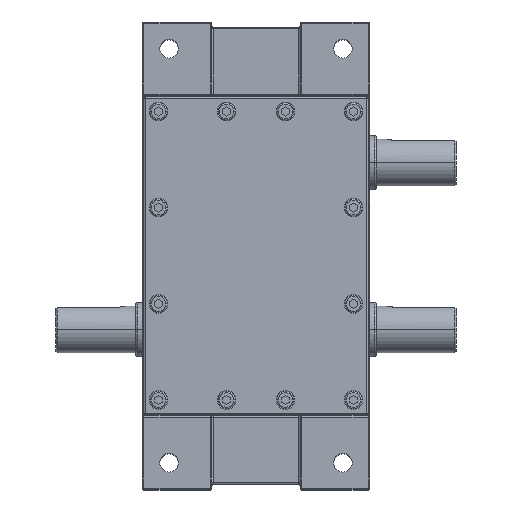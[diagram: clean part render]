
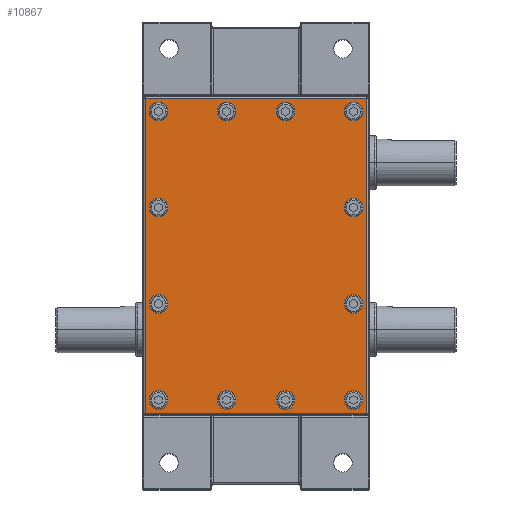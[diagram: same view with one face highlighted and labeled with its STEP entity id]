
A CAD part, top view. The second image highlights one B-rep face of the part: STEP entity #10867.
In plain terms, the highlighted planar face has unit normal (0, 0, 1).
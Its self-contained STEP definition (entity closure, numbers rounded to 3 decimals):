
#1258=CARTESIAN_POINT('',(73.,108.,-2.));
#1259=DIRECTION('',(0.,0.,1.));
#1260=DIRECTION('',(1.,0.,0.));
#1261=AXIS2_PLACEMENT_3D('',#1258,#1259,#1260);
#1263=CARTESIAN_POINT('',(73.,108.,-2.));
#1264=DIRECTION('',(0.,0.,1.));
#1265=DIRECTION('',(-1.,0.,0.));
#1266=AXIS2_PLACEMENT_3D('',#1263,#1264,#1265);
#1268=CARTESIAN_POINT('',(22.,108.,-2.));
#1269=DIRECTION('',(0.,0.,1.));
#1270=DIRECTION('',(1.,0.,0.));
#1271=AXIS2_PLACEMENT_3D('',#1268,#1269,#1270);
#1273=CARTESIAN_POINT('',(22.,108.,-2.));
#1274=DIRECTION('',(0.,0.,1.));
#1275=DIRECTION('',(-1.,0.,0.));
#1276=AXIS2_PLACEMENT_3D('',#1273,#1274,#1275);
#1278=CARTESIAN_POINT('',(-22.,108.,-2.));
#1279=DIRECTION('',(0.,0.,1.));
#1280=DIRECTION('',(1.,0.,0.));
#1281=AXIS2_PLACEMENT_3D('',#1278,#1279,#1280);
#1283=CARTESIAN_POINT('',(-22.,108.,-2.));
#1284=DIRECTION('',(0.,0.,1.));
#1285=DIRECTION('',(-1.,0.,0.));
#1286=AXIS2_PLACEMENT_3D('',#1283,#1284,#1285);
#1288=CARTESIAN_POINT('',(-73.,108.,-2.));
#1289=DIRECTION('',(0.,0.,1.));
#1290=DIRECTION('',(1.,0.,0.));
#1291=AXIS2_PLACEMENT_3D('',#1288,#1289,#1290);
#1293=CARTESIAN_POINT('',(-73.,108.,-2.));
#1294=DIRECTION('',(0.,0.,1.));
#1295=DIRECTION('',(-1.,0.,0.));
#1296=AXIS2_PLACEMENT_3D('',#1293,#1294,#1295);
#1298=CARTESIAN_POINT('',(-73.,36.,-2.));
#1299=DIRECTION('',(0.,0.,1.));
#1300=DIRECTION('',(1.,0.,0.));
#1301=AXIS2_PLACEMENT_3D('',#1298,#1299,#1300);
#1303=CARTESIAN_POINT('',(-73.,36.,-2.));
#1304=DIRECTION('',(0.,0.,1.));
#1305=DIRECTION('',(-1.,0.,0.));
#1306=AXIS2_PLACEMENT_3D('',#1303,#1304,#1305);
#1308=CARTESIAN_POINT('',(-73.,-36.,-2.));
#1309=DIRECTION('',(0.,0.,1.));
#1310=DIRECTION('',(1.,0.,0.));
#1311=AXIS2_PLACEMENT_3D('',#1308,#1309,#1310);
#1313=CARTESIAN_POINT('',(-73.,-36.,-2.));
#1314=DIRECTION('',(0.,0.,1.));
#1315=DIRECTION('',(-1.,0.,0.));
#1316=AXIS2_PLACEMENT_3D('',#1313,#1314,#1315);
#1318=CARTESIAN_POINT('',(-73.,-108.,-2.));
#1319=DIRECTION('',(0.,0.,1.));
#1320=DIRECTION('',(1.,0.,0.));
#1321=AXIS2_PLACEMENT_3D('',#1318,#1319,#1320);
#1323=CARTESIAN_POINT('',(-73.,-108.,-2.));
#1324=DIRECTION('',(0.,0.,1.));
#1325=DIRECTION('',(-1.,0.,0.));
#1326=AXIS2_PLACEMENT_3D('',#1323,#1324,#1325);
#1328=CARTESIAN_POINT('',(-22.,-108.,-2.));
#1329=DIRECTION('',(0.,0.,1.));
#1330=DIRECTION('',(1.,0.,0.));
#1331=AXIS2_PLACEMENT_3D('',#1328,#1329,#1330);
#1333=CARTESIAN_POINT('',(-22.,-108.,-2.));
#1334=DIRECTION('',(0.,0.,1.));
#1335=DIRECTION('',(-1.,0.,0.));
#1336=AXIS2_PLACEMENT_3D('',#1333,#1334,#1335);
#1338=CARTESIAN_POINT('',(22.,-108.,-2.));
#1339=DIRECTION('',(0.,0.,1.));
#1340=DIRECTION('',(1.,0.,0.));
#1341=AXIS2_PLACEMENT_3D('',#1338,#1339,#1340);
#1343=CARTESIAN_POINT('',(22.,-108.,-2.));
#1344=DIRECTION('',(0.,0.,1.));
#1345=DIRECTION('',(-1.,0.,0.));
#1346=AXIS2_PLACEMENT_3D('',#1343,#1344,#1345);
#1348=CARTESIAN_POINT('',(73.,-108.,-2.));
#1349=DIRECTION('',(0.,0.,1.));
#1350=DIRECTION('',(1.,0.,0.));
#1351=AXIS2_PLACEMENT_3D('',#1348,#1349,#1350);
#1353=CARTESIAN_POINT('',(73.,-108.,-2.));
#1354=DIRECTION('',(0.,0.,1.));
#1355=DIRECTION('',(-1.,0.,0.));
#1356=AXIS2_PLACEMENT_3D('',#1353,#1354,#1355);
#1358=CARTESIAN_POINT('',(73.,-36.,-2.));
#1359=DIRECTION('',(0.,0.,1.));
#1360=DIRECTION('',(1.,0.,0.));
#1361=AXIS2_PLACEMENT_3D('',#1358,#1359,#1360);
#1363=CARTESIAN_POINT('',(73.,-36.,-2.));
#1364=DIRECTION('',(0.,0.,1.));
#1365=DIRECTION('',(-1.,0.,0.));
#1366=AXIS2_PLACEMENT_3D('',#1363,#1364,#1365);
#1368=CARTESIAN_POINT('',(73.,36.,-2.));
#1369=DIRECTION('',(0.,0.,1.));
#1370=DIRECTION('',(1.,0.,0.));
#1371=AXIS2_PLACEMENT_3D('',#1368,#1369,#1370);
#1373=CARTESIAN_POINT('',(73.,36.,-2.));
#1374=DIRECTION('',(0.,0.,1.));
#1375=DIRECTION('',(-1.,0.,0.));
#1376=AXIS2_PLACEMENT_3D('',#1373,#1374,#1375);
#1378=DIRECTION('',(0.,1.,0.));
#1379=VECTOR('',#1378,236.);
#1380=CARTESIAN_POINT('',(83.,-118.,-2.));
#1381=LINE('',#1380,#1379);
#1382=DIRECTION('',(1.,0.,0.));
#1383=VECTOR('',#1382,166.);
#1384=CARTESIAN_POINT('',(-83.,-118.,-2.));
#1385=LINE('',#1384,#1383);
#1386=DIRECTION('',(0.,-1.,0.));
#1387=VECTOR('',#1386,236.);
#1388=CARTESIAN_POINT('',(-83.,118.,-2.));
#1389=LINE('',#1388,#1387);
#1390=DIRECTION('',(-1.,0.,0.));
#1391=VECTOR('',#1390,166.);
#1392=CARTESIAN_POINT('',(83.,118.,-2.));
#1393=LINE('',#1392,#1391);
#7405=CARTESIAN_POINT('',(80.,108.,-2.));
#7406=CARTESIAN_POINT('',(66.,108.,-2.));
#7407=VERTEX_POINT('',#7405);
#7408=VERTEX_POINT('',#7406);
#7409=CARTESIAN_POINT('',(29.,108.,-2.));
#7410=CARTESIAN_POINT('',(15.,108.,-2.));
#7411=VERTEX_POINT('',#7409);
#7412=VERTEX_POINT('',#7410);
#7413=CARTESIAN_POINT('',(-15.,108.,-2.));
#7414=CARTESIAN_POINT('',(-29.,108.,-2.));
#7415=VERTEX_POINT('',#7413);
#7416=VERTEX_POINT('',#7414);
#7417=CARTESIAN_POINT('',(-66.,108.,-2.));
#7418=CARTESIAN_POINT('',(-80.,108.,-2.));
#7419=VERTEX_POINT('',#7417);
#7420=VERTEX_POINT('',#7418);
#7421=CARTESIAN_POINT('',(-66.,36.,-2.));
#7422=CARTESIAN_POINT('',(-80.,36.,-2.));
#7423=VERTEX_POINT('',#7421);
#7424=VERTEX_POINT('',#7422);
#7425=CARTESIAN_POINT('',(-66.,-36.,-2.));
#7426=CARTESIAN_POINT('',(-80.,-36.,-2.));
#7427=VERTEX_POINT('',#7425);
#7428=VERTEX_POINT('',#7426);
#7429=CARTESIAN_POINT('',(-66.,-108.,-2.));
#7430=CARTESIAN_POINT('',(-80.,-108.,-2.));
#7431=VERTEX_POINT('',#7429);
#7432=VERTEX_POINT('',#7430);
#7433=CARTESIAN_POINT('',(-15.,-108.,-2.));
#7434=CARTESIAN_POINT('',(-29.,-108.,-2.));
#7435=VERTEX_POINT('',#7433);
#7436=VERTEX_POINT('',#7434);
#7437=CARTESIAN_POINT('',(29.,-108.,-2.));
#7438=CARTESIAN_POINT('',(15.,-108.,-2.));
#7439=VERTEX_POINT('',#7437);
#7440=VERTEX_POINT('',#7438);
#7441=CARTESIAN_POINT('',(80.,-108.,-2.));
#7442=CARTESIAN_POINT('',(66.,-108.,-2.));
#7443=VERTEX_POINT('',#7441);
#7444=VERTEX_POINT('',#7442);
#7445=CARTESIAN_POINT('',(80.,-36.,-2.));
#7446=CARTESIAN_POINT('',(66.,-36.,-2.));
#7447=VERTEX_POINT('',#7445);
#7448=VERTEX_POINT('',#7446);
#7449=CARTESIAN_POINT('',(80.,36.,-2.));
#7450=CARTESIAN_POINT('',(66.,36.,-2.));
#7451=VERTEX_POINT('',#7449);
#7452=VERTEX_POINT('',#7450);
#7821=CARTESIAN_POINT('',(83.,-118.,-2.));
#7822=CARTESIAN_POINT('',(83.,118.,-2.));
#7823=VERTEX_POINT('',#7821);
#7824=VERTEX_POINT('',#7822);
#7833=CARTESIAN_POINT('',(-83.,118.,-2.));
#7834=CARTESIAN_POINT('',(-83.,-118.,-2.));
#7835=VERTEX_POINT('',#7833);
#7836=VERTEX_POINT('',#7834);
#10781=CARTESIAN_POINT('',(0.,0.,-2.));
#10782=DIRECTION('',(0.,0.,1.));
#10783=DIRECTION('',(1.,0.,0.));
#10784=AXIS2_PLACEMENT_3D('',#10781,#10782,#10783);
#10785=PLANE('',#10784);
#10787=ORIENTED_EDGE('',*,*,#10786,.F.);
#10789=ORIENTED_EDGE('',*,*,#10788,.F.);
#10791=ORIENTED_EDGE('',*,*,#10790,.F.);
#10793=ORIENTED_EDGE('',*,*,#10792,.F.);
#10794=EDGE_LOOP('',(#10787,#10789,#10791,#10793));
#10795=FACE_OUTER_BOUND('',#10794,.F.);
#10797=ORIENTED_EDGE('',*,*,#10796,.T.);
#10799=ORIENTED_EDGE('',*,*,#10798,.T.);
#10800=EDGE_LOOP('',(#10797,#10799));
#10801=FACE_BOUND('',#10800,.F.);
#10803=ORIENTED_EDGE('',*,*,#10802,.T.);
#10805=ORIENTED_EDGE('',*,*,#10804,.T.);
#10806=EDGE_LOOP('',(#10803,#10805));
#10807=FACE_BOUND('',#10806,.F.);
#10809=ORIENTED_EDGE('',*,*,#10808,.T.);
#10811=ORIENTED_EDGE('',*,*,#10810,.T.);
#10812=EDGE_LOOP('',(#10809,#10811));
#10813=FACE_BOUND('',#10812,.F.);
#10815=ORIENTED_EDGE('',*,*,#10814,.T.);
#10817=ORIENTED_EDGE('',*,*,#10816,.T.);
#10818=EDGE_LOOP('',(#10815,#10817));
#10819=FACE_BOUND('',#10818,.F.);
#10821=ORIENTED_EDGE('',*,*,#10820,.T.);
#10823=ORIENTED_EDGE('',*,*,#10822,.T.);
#10824=EDGE_LOOP('',(#10821,#10823));
#10825=FACE_BOUND('',#10824,.F.);
#10827=ORIENTED_EDGE('',*,*,#10826,.T.);
#10829=ORIENTED_EDGE('',*,*,#10828,.T.);
#10830=EDGE_LOOP('',(#10827,#10829));
#10831=FACE_BOUND('',#10830,.F.);
#10833=ORIENTED_EDGE('',*,*,#10832,.T.);
#10835=ORIENTED_EDGE('',*,*,#10834,.T.);
#10836=EDGE_LOOP('',(#10833,#10835));
#10837=FACE_BOUND('',#10836,.F.);
#10839=ORIENTED_EDGE('',*,*,#10838,.T.);
#10841=ORIENTED_EDGE('',*,*,#10840,.T.);
#10842=EDGE_LOOP('',(#10839,#10841));
#10843=FACE_BOUND('',#10842,.F.);
#10845=ORIENTED_EDGE('',*,*,#10844,.T.);
#10847=ORIENTED_EDGE('',*,*,#10846,.T.);
#10848=EDGE_LOOP('',(#10845,#10847));
#10849=FACE_BOUND('',#10848,.F.);
#10851=ORIENTED_EDGE('',*,*,#10850,.T.);
#10853=ORIENTED_EDGE('',*,*,#10852,.T.);
#10854=EDGE_LOOP('',(#10851,#10853));
#10855=FACE_BOUND('',#10854,.F.);
#10857=ORIENTED_EDGE('',*,*,#10856,.T.);
#10859=ORIENTED_EDGE('',*,*,#10858,.T.);
#10860=EDGE_LOOP('',(#10857,#10859));
#10861=FACE_BOUND('',#10860,.F.);
#10862=ORIENTED_EDGE('',*,*,#10771,.T.);
#10864=ORIENTED_EDGE('',*,*,#10863,.T.);
#10865=EDGE_LOOP('',(#10862,#10864));
#10866=FACE_BOUND('',#10865,.F.);
#1262=CIRCLE('',#1261,7.);
#1267=CIRCLE('',#1266,7.);
#1272=CIRCLE('',#1271,7.);
#1277=CIRCLE('',#1276,7.);
#1282=CIRCLE('',#1281,7.);
#1287=CIRCLE('',#1286,7.);
#1292=CIRCLE('',#1291,7.);
#1297=CIRCLE('',#1296,7.);
#1302=CIRCLE('',#1301,7.);
#1307=CIRCLE('',#1306,7.);
#1312=CIRCLE('',#1311,7.);
#1317=CIRCLE('',#1316,7.);
#1322=CIRCLE('',#1321,7.);
#1327=CIRCLE('',#1326,7.);
#1332=CIRCLE('',#1331,7.);
#1337=CIRCLE('',#1336,7.);
#1342=CIRCLE('',#1341,7.);
#1347=CIRCLE('',#1346,7.);
#1352=CIRCLE('',#1351,7.);
#1357=CIRCLE('',#1356,7.);
#1362=CIRCLE('',#1361,7.);
#1367=CIRCLE('',#1366,7.);
#1372=CIRCLE('',#1371,7.);
#1377=CIRCLE('',#1376,7.);
#10771=EDGE_CURVE('',#7407,#7408,#1262,.T.);
#10786=EDGE_CURVE('',#7823,#7824,#1381,.T.);
#10788=EDGE_CURVE('',#7836,#7823,#1385,.T.);
#10790=EDGE_CURVE('',#7835,#7836,#1389,.T.);
#10792=EDGE_CURVE('',#7824,#7835,#1393,.T.);
#10796=EDGE_CURVE('',#7411,#7412,#1272,.T.);
#10798=EDGE_CURVE('',#7412,#7411,#1277,.T.);
#10802=EDGE_CURVE('',#7415,#7416,#1282,.T.);
#10804=EDGE_CURVE('',#7416,#7415,#1287,.T.);
#10808=EDGE_CURVE('',#7419,#7420,#1292,.T.);
#10810=EDGE_CURVE('',#7420,#7419,#1297,.T.);
#10814=EDGE_CURVE('',#7423,#7424,#1302,.T.);
#10816=EDGE_CURVE('',#7424,#7423,#1307,.T.);
#10820=EDGE_CURVE('',#7427,#7428,#1312,.T.);
#10822=EDGE_CURVE('',#7428,#7427,#1317,.T.);
#10826=EDGE_CURVE('',#7431,#7432,#1322,.T.);
#10828=EDGE_CURVE('',#7432,#7431,#1327,.T.);
#10832=EDGE_CURVE('',#7435,#7436,#1332,.T.);
#10834=EDGE_CURVE('',#7436,#7435,#1337,.T.);
#10838=EDGE_CURVE('',#7439,#7440,#1342,.T.);
#10840=EDGE_CURVE('',#7440,#7439,#1347,.T.);
#10844=EDGE_CURVE('',#7443,#7444,#1352,.T.);
#10846=EDGE_CURVE('',#7444,#7443,#1357,.T.);
#10850=EDGE_CURVE('',#7447,#7448,#1362,.T.);
#10852=EDGE_CURVE('',#7448,#7447,#1367,.T.);
#10856=EDGE_CURVE('',#7451,#7452,#1372,.T.);
#10858=EDGE_CURVE('',#7452,#7451,#1377,.T.);
#10863=EDGE_CURVE('',#7408,#7407,#1267,.T.);
#10867=ADVANCED_FACE('',(#10795,#10801,#10807,#10813,#10819,#10825,#10831,
#10837,#10843,#10849,#10855,#10861,#10866),#10785,.T.);
